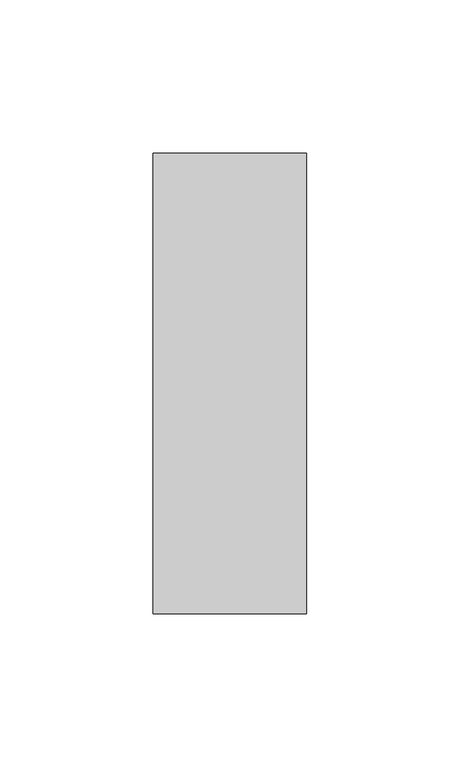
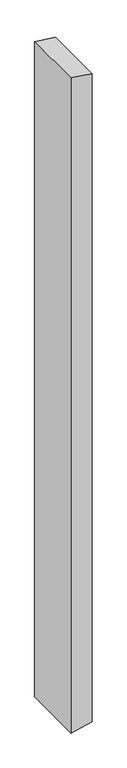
"""IFC4 building model written with IfcOpenShell, lengths in millimetres: member geometry, Прямоугольный импост : 50 x 150 мм."""

from ifc_helpers import new_model, si_unit, frame, origin, place, context, project, spatial, polyline, outline, extrude, source, transform, mapped, element, save


def member_2eb2cab6(model_context):
    return source(origin(), model_context, "Body", "SweptSolid", [
        extrude(outline(polyline([(0.0, 0.0), (6.2466676, -50.0), (-1642.7102258, -50.0), (-1632.044072, 0.0), (0.0, 0.0)])), frame((0.0, -75.0, 0.0), z_axis=(0.0, 1.0, 0.0), x_axis=(0.0, 0.0, 1.0)), (0.0, 0.0, 1.0), 150.0),
    ])


if __name__ == "__main__":
    model = new_model("IFC4")
    model_context = context("Model", 3, world=origin())
    ifc_project = project(units=[si_unit("LENGTHUNIT", "METRE", prefix="MILLI")], contexts=[model_context])
    site = spatial("IfcSite", under=ifc_project)
    building = spatial("IfcBuilding", under=site)
    placement = place(None, origin())
    member_shape = member_2eb2cab6(model_context)
    element("IfcMember", 1, ObjectType="Прямоугольный импост : 50 x 150 мм", at=placement, inside=building, context=model_context, shape_type="MappedRepresentation", body=[
        mapped(member_shape, transform((0.0, 0.0, 0.0), x_axis=(1.0, 0.0, 0.0), y_axis=(0.0, 1.0, 0.0), z_axis=(0.0, 0.0, 1.0))),
    ])
    save(model, "model.ifc")
